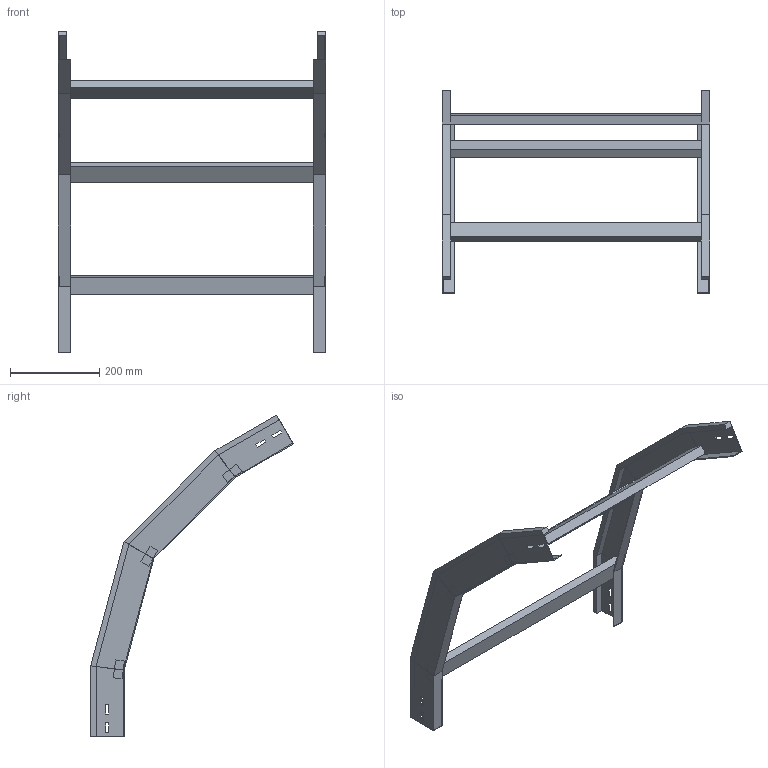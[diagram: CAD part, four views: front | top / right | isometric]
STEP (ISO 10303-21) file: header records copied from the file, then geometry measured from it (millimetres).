
FILE_DESCRIPTION (( 'STEP AP214' ), '1' );
FILE_NAME ('41B5C600.step', '2025-02-21T14:59:34', ( '' ), ( '' ), 'SwSTEP 2.0', 'SolidWorks 2023', '' );
FILE_SCHEMA (( 'AUTOMOTIVE_DESIGN' ));
Length unit declared in the file: millimetre
Products named in the file (3): TRAVERSINO_600; 41B5C600; LONGH.DISCESA_60°_H75_R500
Assembly tree (5 placements, depth 2):
  41B5C600
    LONGH.DISCESA_60°_H75_R500  x2
    TRAVERSINO_600  x3
Bounding box: 600 x 455.08 x 723.27 mm (x, y, z)
Volume: 2127339.7 mm3; surface area: 624406.3 mm2
Topology: 5 solids, 5 shells, 118 faces, 276 edges, 168 vertices
Faces by surface type: plane 118
Entity records: 1672 total; most frequent: CARTESIAN_POINT 276, ORIENTED_EDGE 264, DIRECTION 260, VECTOR 132, EDGE_CURVE 132, LINE 132, VERTEX_POINT 80, AXIS2_PLACEMENT_3D 64
